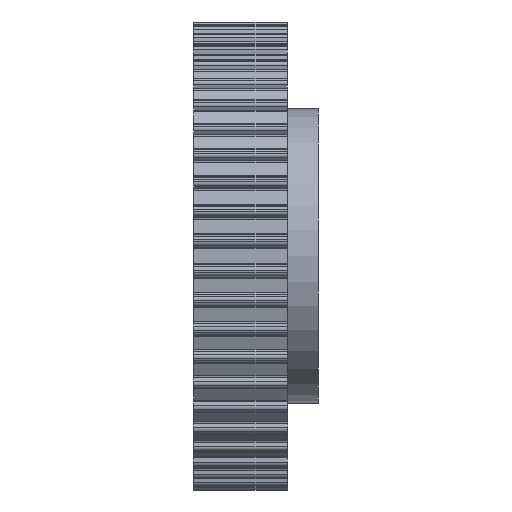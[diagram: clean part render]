
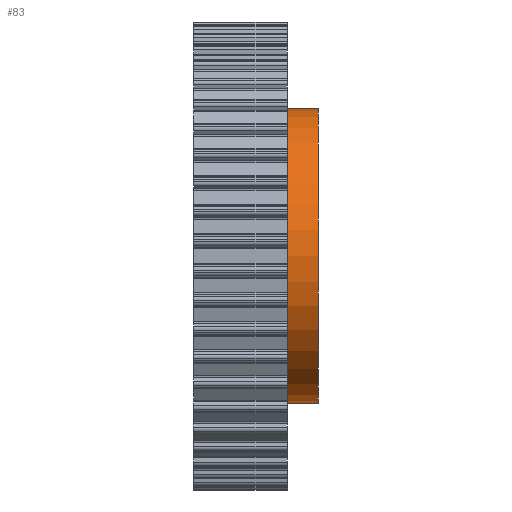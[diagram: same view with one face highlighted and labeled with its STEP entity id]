
A CAD part, front view. The second image highlights one B-rep face of the part: STEP entity #83.
In plain terms, the highlighted cylindrical face has radius 47.5 mm (diameter 95 mm), a full revolution.
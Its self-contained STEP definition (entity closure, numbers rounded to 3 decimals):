
#83 = ADVANCED_FACE( '', ( #485, #486 ), #487, .T. );
#485 = FACE_OUTER_BOUND( '', #1268, .T. );
#486 = FACE_OUTER_BOUND( '', #1269, .T. );
#487 = CYLINDRICAL_SURFACE( '', #1270, 47.5 );
#1268 = EDGE_LOOP( '', ( #2845 ) );
#1269 = EDGE_LOOP( '', ( #2846 ) );
#1270 = AXIS2_PLACEMENT_3D( '', #2847, #2848, #2849 );
#2845 = ORIENTED_EDGE( '', *, *, #6284, .T. );
#2846 = ORIENTED_EDGE( '', *, *, #6286, .F. );
#2847 = CARTESIAN_POINT( '', ( 40., 0., 0. ) );
#2848 = DIRECTION( '', ( -1., 0., 0. ) );
#2849 = DIRECTION( '', ( 0., 0., -1. ) );
#6284 = EDGE_CURVE( '', #8209, #8209, #8210, .T. );
#6286 = EDGE_CURVE( '', #8213, #8213, #8214, .T. );
#8209 = VERTEX_POINT( '', #10430 );
#8210 = CIRCLE( '', #10431, 47.5 );
#8213 = VERTEX_POINT( '', #10434 );
#8214 = CIRCLE( '', #10435, 47.5 );
#10430 = CARTESIAN_POINT( '', ( 30., 0., -47.5 ) );
#10431 = AXIS2_PLACEMENT_3D( '', #12930, #12931, #12932 );
#10434 = CARTESIAN_POINT( '', ( 40., 0., -47.5 ) );
#10435 = AXIS2_PLACEMENT_3D( '', #12936, #12937, #12938 );
#12930 = CARTESIAN_POINT( '', ( 30., 0., 0. ) );
#12931 = DIRECTION( '', ( 1., 0., 0. ) );
#12932 = DIRECTION( '', ( 0., 0., -1. ) );
#12936 = CARTESIAN_POINT( '', ( 40., 0., 0. ) );
#12937 = DIRECTION( '', ( 1., 0., 0. ) );
#12938 = DIRECTION( '', ( 0., 0., -1. ) );
